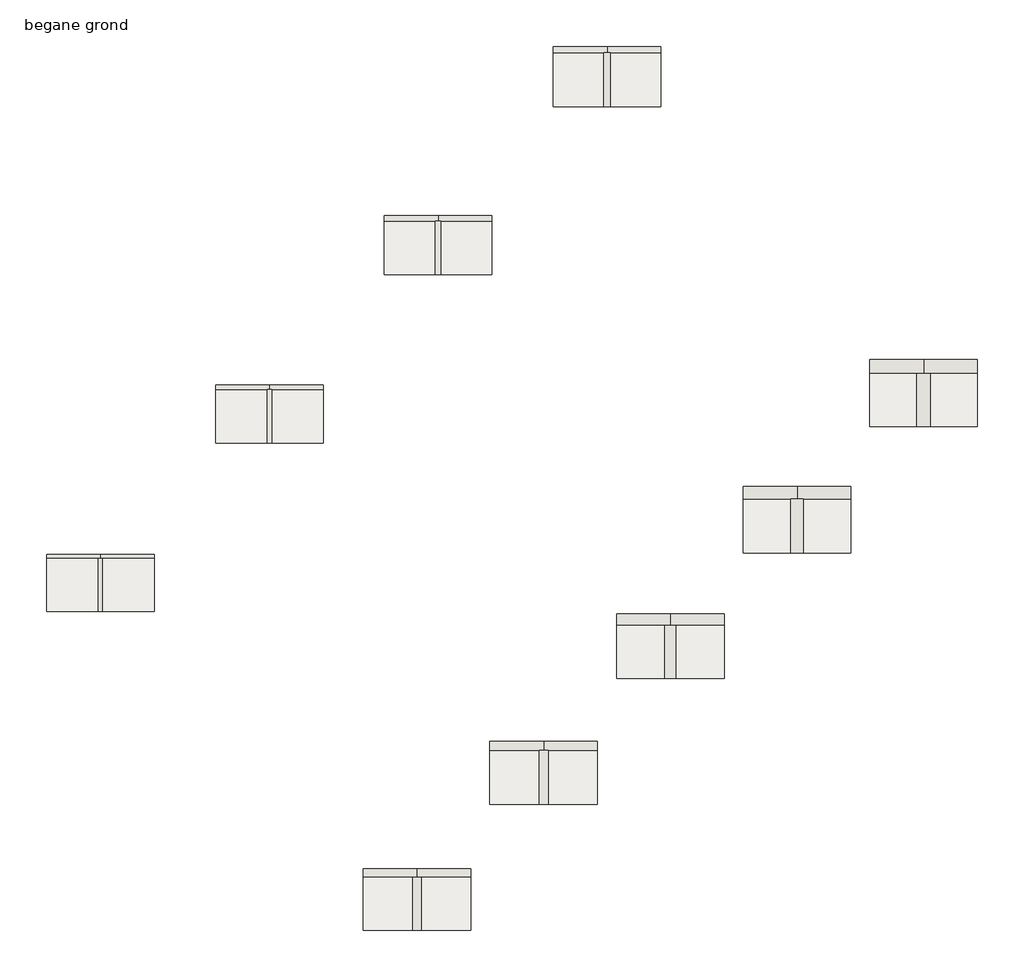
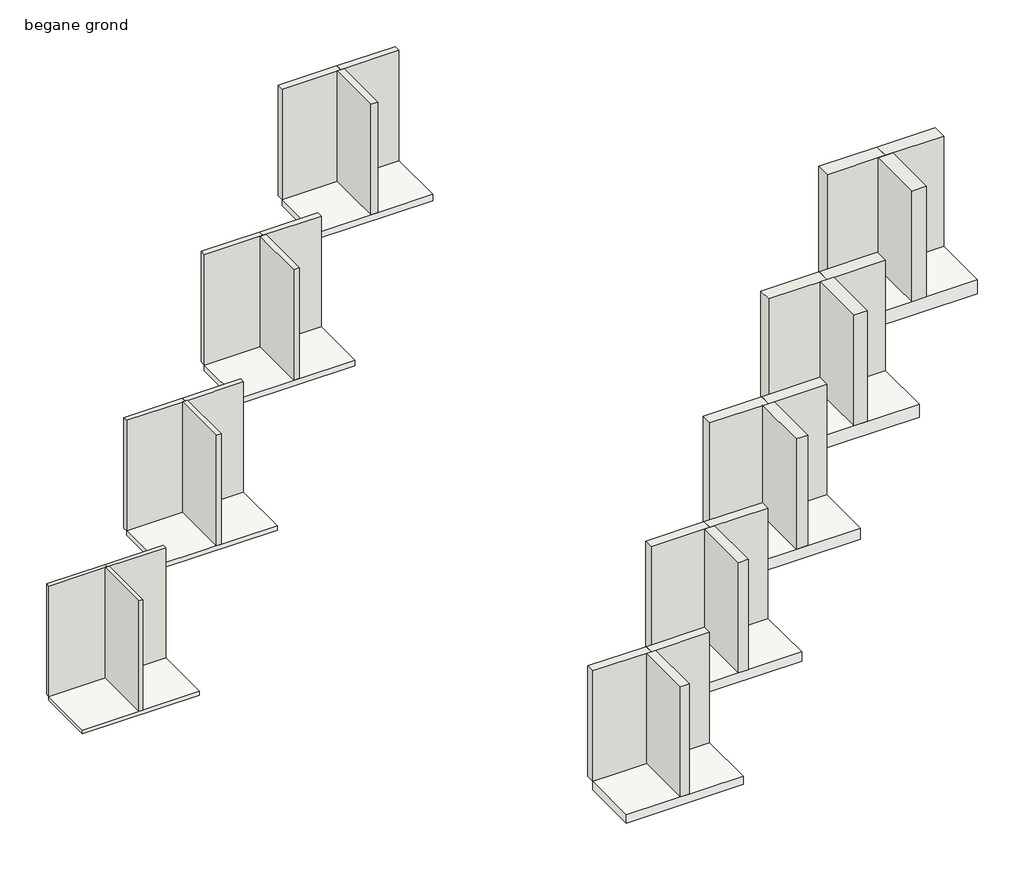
# One storey: 27 walls, 9 slabs.
"""IFC4 building model written with IfcOpenShell, lengths in millimetres."""

from ifc_helpers import new_model, si_unit, frame, origin, origin_with_axes, place, context, project, spatial, polyline, outline, extrude, element, save

model = new_model("IFC4")

# Units and contexts
model_context = context("Model", 3, world=origin())
ifc_project = project(units=[si_unit("LENGTHUNIT", "METRE", prefix="MILLI")], contexts=[model_context])

# Site, building, storey
site = spatial("IfcSite", under=ifc_project)
building = spatial("IfcBuilding", under=site)
storey = spatial("IfcBuildingStorey", under=building, Name="begane grond", Elevation=0.0)

# Slabs
placement = place(None, origin())
element("IfcSlab", 1, ObjectType="NLRS_23_FL_Mineral Wool_100x600x1200mm", at=placement, inside=storey, context=model_context, shape_type="SweptSolid", body=[
    extrude(outline(polyline([(6584.2861217, 253.2432475), (6584.2861217, -346.7567525), (5384.2861217, -346.7567525), (5384.2861217, 253.2432475), (6584.2861217, 253.2432475)])), frame((0.0, 0.0, -100.0), z_axis=(0.0, 0.0, 1.0), x_axis=(1.0, 0.0, 0.0)), (0.0, 0.0, 1.0), 100.0),
])
element("IfcSlab", 2, ObjectType="NLRS_23_FL_Mineral Wool_120x600x1200mm", at=placement, inside=storey, context=model_context, shape_type="SweptSolid", body=[
    extrude(outline(polyline([(7998.499684, 1657.4568098), (7998.499684, 1057.4568098), (6798.499684, 1057.4568098), (6798.499684, 1657.4568098), (7998.499684, 1657.4568098)])), frame((0.0, 0.0, -120.0), z_axis=(0.0, 0.0, 1.0), x_axis=(1.0, 0.0, 0.0)), (0.0, 0.0, 1.0), 120.0),
])
element("IfcSlab", 3, ObjectType="NLRS_23_FL_Mineral Wool_140x600x1200mm", at=placement, inside=storey, context=model_context, shape_type="SweptSolid", body=[
    extrude(outline(polyline([(9412.7132464, 3061.6703722), (9412.7132464, 2461.6703722), (8212.7132464, 2461.6703722), (8212.7132464, 3061.6703722), (9412.7132464, 3061.6703722)])), frame((0.0, 0.0, -140.0), z_axis=(0.0, 0.0, 1.0), x_axis=(1.0, 0.0, 0.0)), (0.0, 0.0, 1.0), 140.0),
])
element("IfcSlab", 4, ObjectType="NLRS_23_FL_Mineral Wool_150x600x1200mm", at=placement, inside=storey, context=model_context, shape_type="SweptSolid", body=[
    extrude(outline(polyline([(10826.9268088, 4470.8839346), (10826.9268088, 3870.8839346), (9626.9268088, 3870.8839346), (9626.9268088, 4470.8839346), (10826.9268088, 4470.8839346)])), frame((0.0, 0.0, -150.0), z_axis=(0.0, 0.0, 1.0), x_axis=(1.0, 0.0, 0.0)), (0.0, 0.0, 1.0), 150.0),
])
element("IfcSlab", 5, ObjectType="NLRS_23_FL_Mineral Wool_40x600x1200mm", at=placement, inside=storey, context=model_context, shape_type="SweptSolid", body=[
    extrude(outline(polyline([(1634.5386534, 2404.563591), (1634.5386534, 1804.563591), (434.5386534, 1804.563591), (434.5386534, 2404.563591), (1634.5386534, 2404.563591)])), frame((0.0, 0.0, -40.0), z_axis=(0.0, 0.0, 1.0), x_axis=(1.0, 0.0, 0.0)), (0.0, 0.0, 1.0), 40.0),
])
element("IfcSlab", 6, ObjectType="NLRS_23_FL_Mineral Wool_50x600x1200mm", at=placement, inside=storey, context=model_context, shape_type="SweptSolid", body=[
    extrude(outline(polyline([(3521.0995456, 4286.1244832), (3521.0995456, 3686.1244832), (2321.0995456, 3686.1244832), (2321.0995456, 4286.1244832), (3521.0995456, 4286.1244832)])), frame((0.0, 0.0, -50.0), z_axis=(0.0, 0.0, 1.0), x_axis=(1.0, 0.0, 0.0)), (0.0, 0.0, 1.0), 50.0),
])
element("IfcSlab", 7, ObjectType="NLRS_23_FL_Mineral Wool_60x600x1200mm", at=placement, inside=storey, context=model_context, shape_type="SweptSolid", body=[
    extrude(outline(polyline([(5406.2462242, 6166.2711619), (5406.2462242, 5566.2711619), (4206.2462242, 5566.2711619), (4206.2462242, 6166.2711619), (5406.2462242, 6166.2711619)])), frame((0.0, 0.0, -60.0), z_axis=(0.0, 0.0, 1.0), x_axis=(1.0, 0.0, 0.0)), (0.0, 0.0, 1.0), 60.0),
])
element("IfcSlab", 8, ObjectType="NLRS_23_FL_Mineral Wool_70x600x1200mm", at=placement, inside=storey, context=model_context, shape_type="SweptSolid", body=[
    extrude(outline(polyline([(7291.3929029, 8046.4178405), (7291.3929029, 7446.4178405), (6091.3929029, 7446.4178405), (6091.3929029, 8046.4178405), (7291.3929029, 8046.4178405)])), frame((0.0, 0.0, -70.0), z_axis=(0.0, 0.0, 1.0), x_axis=(1.0, 0.0, 0.0)), (0.0, 0.0, 1.0), 70.0),
])
element("IfcSlab", 9, ObjectType="NLRS_23_FL_Mineral Wool_90x600x1200mm", at=placement, inside=storey, context=model_context, shape_type="SweptSolid", body=[
    extrude(outline(polyline([(5170.0725593, -1155.9703149), (5170.0725593, -1755.9703149), (3970.0725593, -1755.9703149), (3970.0725593, -1155.9703149), (5170.0725593, -1155.9703149)])), frame((0.0, 0.0, -90.0), z_axis=(0.0, 0.0, 1.0), x_axis=(1.0, 0.0, 0.0)), (0.0, 0.0, 1.0), 90.0),
])

# Walls
element("IfcWall", 10, ObjectType="NLRS_22_WA_Mineral Wool 35_100x600x1200mm", at=placement, inside=storey, context=model_context, shape_type="SweptSolid", body=[
    extrude(outline(polyline([(5984.2861217, 253.2432475), (5384.2861217, 253.2432475), (5384.2861217, 353.2432475), (5984.2861217, 353.2432475), (5984.2861217, 253.2432475)])), origin_with_axes(), (0.0, 0.0, 1.0), 1200.0),
])
element("IfcWall", 11, ObjectType="NLRS_22_WA_Mineral Wool 35_100x600x1200mm", at=placement, inside=storey, context=model_context, shape_type="SweptSolid", body=[
    extrude(outline(polyline([(6584.2861217, 253.2432475), (5984.2861217, 253.2432475), (5984.2861217, 353.2432475), (6584.2861217, 353.2432475), (6584.2861217, 253.2432475)])), origin_with_axes(), (0.0, 0.0, 1.0), 1200.0),
])
element("IfcWall", 12, ObjectType="NLRS_22_WA_Mineral Wool 35_100x600x1200mm", at=placement, inside=storey, context=model_context, shape_type="SweptSolid", body=[
    extrude(outline(polyline([(5934.2861217, -346.7567525), (5934.2861217, 253.2432475), (6034.2861217, 253.2432475), (6034.2861217, -346.7567525), (5934.2861217, -346.7567525)])), origin_with_axes(), (0.0, 0.0, 1.0), 1200.0),
])
element("IfcWall", 13, ObjectType="NLRS_22_WA_Mineral Wool 35_120x600x1200mm", at=placement, inside=storey, context=model_context, shape_type="SweptSolid", body=[
    extrude(outline(polyline([(7398.499684, 1657.4568098), (6798.499684, 1657.4568098), (6798.499684, 1777.4568098), (7398.499684, 1777.4568098), (7398.499684, 1657.4568098)])), origin_with_axes(), (0.0, 0.0, 1.0), 1200.0),
])
element("IfcWall", 14, ObjectType="NLRS_22_WA_Mineral Wool 35_120x600x1200mm", at=placement, inside=storey, context=model_context, shape_type="SweptSolid", body=[
    extrude(outline(polyline([(7998.499684, 1657.4568098), (7398.499684, 1657.4568098), (7398.499684, 1777.4568098), (7998.499684, 1777.4568098), (7998.499684, 1657.4568098)])), origin_with_axes(), (0.0, 0.0, 1.0), 1200.0),
])
element("IfcWall", 15, ObjectType="NLRS_22_WA_Mineral Wool 35_120x600x1200mm", at=placement, inside=storey, context=model_context, shape_type="SweptSolid", body=[
    extrude(outline(polyline([(7338.499684, 1057.4568098), (7338.499684, 1657.4568098), (7458.499684, 1657.4568098), (7458.499684, 1057.4568098), (7338.499684, 1057.4568098)])), origin_with_axes(), (0.0, 0.0, 1.0), 1200.0),
])
element("IfcWall", 16, ObjectType="NLRS_22_WA_Mineral Wool 35_140x600x1200mm", at=placement, inside=storey, context=model_context, shape_type="SweptSolid", body=[
    extrude(outline(polyline([(8812.7132464, 3061.6703722), (8212.7132464, 3061.6703722), (8212.7132464, 3201.6703722), (8812.7132464, 3201.6703722), (8812.7132464, 3061.6703722)])), origin_with_axes(), (0.0, 0.0, 1.0), 1200.0),
])
element("IfcWall", 17, ObjectType="NLRS_22_WA_Mineral Wool 35_140x600x1200mm", at=placement, inside=storey, context=model_context, shape_type="SweptSolid", body=[
    extrude(outline(polyline([(9412.7132464, 3061.6703722), (8812.7132464, 3061.6703722), (8812.7132464, 3201.6703722), (9412.7132464, 3201.6703722), (9412.7132464, 3061.6703722)])), origin_with_axes(), (0.0, 0.0, 1.0), 1200.0),
])
element("IfcWall", 18, ObjectType="NLRS_22_WA_Mineral Wool 35_140x600x1200mm", at=placement, inside=storey, context=model_context, shape_type="SweptSolid", body=[
    extrude(outline(polyline([(8742.7132464, 2461.6703722), (8742.7132464, 3061.6703722), (8882.7132464, 3061.6703722), (8882.7132464, 2461.6703722), (8742.7132464, 2461.6703722)])), origin_with_axes(), (0.0, 0.0, 1.0), 1200.0),
])
element("IfcWall", 19, ObjectType="NLRS_22_WA_Mineral Wool 35_150x600x1200mm", at=placement, inside=storey, context=model_context, shape_type="SweptSolid", body=[
    extrude(outline(polyline([(10226.9268088, 4470.8839346), (9626.9268088, 4470.8839346), (9626.9268088, 4620.8839346), (10226.9268088, 4620.8839346), (10226.9268088, 4470.8839346)])), origin_with_axes(), (0.0, 0.0, 1.0), 1200.0),
])
element("IfcWall", 20, ObjectType="NLRS_22_WA_Mineral Wool 35_150x600x1200mm", at=placement, inside=storey, context=model_context, shape_type="SweptSolid", body=[
    extrude(outline(polyline([(10826.9268088, 4470.8839346), (10226.9268088, 4470.8839346), (10226.9268088, 4620.8839346), (10826.9268088, 4620.8839346), (10826.9268088, 4470.8839346)])), origin_with_axes(), (0.0, 0.0, 1.0), 1200.0),
])
element("IfcWall", 21, ObjectType="NLRS_22_WA_Mineral Wool 35_150x600x1200mm", at=placement, inside=storey, context=model_context, shape_type="SweptSolid", body=[
    extrude(outline(polyline([(10151.9268088, 3870.8839346), (10151.9268088, 4470.8839346), (10301.9268088, 4470.8839346), (10301.9268088, 3870.8839346), (10151.9268088, 3870.8839346)])), origin_with_axes(), (0.0, 0.0, 1.0), 1200.0),
])
element("IfcWall", 22, ObjectType="NLRS_22_WA_Mineral Wool 35_40x600x1200mm", at=placement, inside=storey, context=model_context, shape_type="SweptSolid", body=[
    extrude(outline(polyline([(1034.5386534, 2404.563591), (434.5386534, 2404.563591), (434.5386534, 2444.563591), (1034.5386534, 2444.563591), (1034.5386534, 2404.563591)])), origin_with_axes(), (0.0, 0.0, 1.0), 1200.0),
])
element("IfcWall", 23, ObjectType="NLRS_22_WA_Mineral Wool 35_40x600x1200mm", at=placement, inside=storey, context=model_context, shape_type="SweptSolid", body=[
    extrude(outline(polyline([(1634.5386534, 2404.563591), (1034.5386534, 2404.563591), (1034.5386534, 2444.563591), (1634.5386534, 2444.563591), (1634.5386534, 2404.563591)])), origin_with_axes(), (0.0, 0.0, 1.0), 1200.0),
])
element("IfcWall", 24, ObjectType="NLRS_22_WA_Mineral Wool 35_40x600x1200mm", at=placement, inside=storey, context=model_context, shape_type="SweptSolid", body=[
    extrude(outline(polyline([(1014.5386534, 1804.563591), (1014.5386534, 2404.563591), (1054.5386534, 2404.563591), (1054.5386534, 1804.563591), (1014.5386534, 1804.563591)])), origin_with_axes(), (0.0, 0.0, 1.0), 1200.0),
])
element("IfcWall", 25, ObjectType="NLRS_22_WA_Mineral Wool 35_50x600x1200mm", at=placement, inside=storey, context=model_context, shape_type="SweptSolid", body=[
    extrude(outline(polyline([(2921.0995456, 4286.1244832), (2321.0995456, 4286.1244832), (2321.0995456, 4336.1244832), (2921.0995456, 4336.1244832), (2921.0995456, 4286.1244832)])), origin_with_axes(), (0.0, 0.0, 1.0), 1200.0),
])
element("IfcWall", 26, ObjectType="NLRS_22_WA_Mineral Wool 35_50x600x1200mm", at=placement, inside=storey, context=model_context, shape_type="SweptSolid", body=[
    extrude(outline(polyline([(3521.0995456, 4286.1244832), (2921.0995456, 4286.1244832), (2921.0995456, 4336.1244832), (3521.0995456, 4336.1244832), (3521.0995456, 4286.1244832)])), origin_with_axes(), (0.0, 0.0, 1.0), 1200.0),
])
element("IfcWall", 27, ObjectType="NLRS_22_WA_Mineral Wool 35_50x600x1200mm", at=placement, inside=storey, context=model_context, shape_type="SweptSolid", body=[
    extrude(outline(polyline([(2896.0995456, 3686.1244832), (2896.0995456, 4286.1244832), (2946.0995456, 4286.1244832), (2946.0995456, 3686.1244832), (2896.0995456, 3686.1244832)])), origin_with_axes(), (0.0, 0.0, 1.0), 1200.0),
])
element("IfcWall", 28, ObjectType="NLRS_22_WA_Mineral Wool 35_60x600x1200mm", at=placement, inside=storey, context=model_context, shape_type="SweptSolid", body=[
    extrude(outline(polyline([(4806.2462242, 6166.2711619), (4206.2462242, 6166.2711619), (4206.2462242, 6226.2711619), (4806.2462242, 6226.2711619), (4806.2462242, 6166.2711619)])), origin_with_axes(), (0.0, 0.0, 1.0), 1200.0),
])
element("IfcWall", 29, ObjectType="NLRS_22_WA_Mineral Wool 35_60x600x1200mm", at=placement, inside=storey, context=model_context, shape_type="SweptSolid", body=[
    extrude(outline(polyline([(5406.2462242, 6166.2711619), (4806.2462242, 6166.2711619), (4806.2462242, 6226.2711619), (5406.2462242, 6226.2711619), (5406.2462242, 6166.2711619)])), origin_with_axes(), (0.0, 0.0, 1.0), 1200.0),
])
element("IfcWall", 30, ObjectType="NLRS_22_WA_Mineral Wool 35_60x600x1200mm", at=placement, inside=storey, context=model_context, shape_type="SweptSolid", body=[
    extrude(outline(polyline([(4776.2462242, 5566.2711619), (4776.2462242, 6166.2711619), (4836.2462242, 6166.2711619), (4836.2462242, 5566.2711619), (4776.2462242, 5566.2711619)])), origin_with_axes(), (0.0, 0.0, 1.0), 1200.0),
])
element("IfcWall", 31, ObjectType="NLRS_22_WA_Mineral Wool 35_70x600x1200mm", at=placement, inside=storey, context=model_context, shape_type="SweptSolid", body=[
    extrude(outline(polyline([(6691.3929029, 8046.4178405), (6091.3929029, 8046.4178405), (6091.3929029, 8116.4178405), (6691.3929029, 8116.4178405), (6691.3929029, 8046.4178405)])), origin_with_axes(), (0.0, 0.0, 1.0), 1200.0),
])
element("IfcWall", 32, ObjectType="NLRS_22_WA_Mineral Wool 35_70x600x1200mm", at=placement, inside=storey, context=model_context, shape_type="SweptSolid", body=[
    extrude(outline(polyline([(7291.3929029, 8046.4178405), (6691.3929029, 8046.4178405), (6691.3929029, 8116.4178405), (7291.3929029, 8116.4178405), (7291.3929029, 8046.4178405)])), origin_with_axes(), (0.0, 0.0, 1.0), 1200.0),
])
element("IfcWall", 33, ObjectType="NLRS_22_WA_Mineral Wool 35_70x600x1200mm", at=placement, inside=storey, context=model_context, shape_type="SweptSolid", body=[
    extrude(outline(polyline([(6656.3929029, 7446.4178405), (6656.3929029, 8046.4178405), (6726.3929029, 8046.4178405), (6726.3929029, 7446.4178405), (6656.3929029, 7446.4178405)])), origin_with_axes(), (0.0, 0.0, 1.0), 1200.0),
])
element("IfcWall", 34, ObjectType="NLRS_22_WA_Mineral Wool 35_90x600x1200mm", at=placement, inside=storey, context=model_context, shape_type="SweptSolid", body=[
    extrude(outline(polyline([(4570.0725593, -1155.9703149), (3970.0725593, -1155.9703149), (3970.0725593, -1065.9703149), (4570.0725593, -1065.9703149), (4570.0725593, -1155.9703149)])), origin_with_axes(), (0.0, 0.0, 1.0), 1200.0),
])
element("IfcWall", 35, ObjectType="NLRS_22_WA_Mineral Wool 35_90x600x1200mm", at=placement, inside=storey, context=model_context, shape_type="SweptSolid", body=[
    extrude(outline(polyline([(5170.0725593, -1155.9703149), (4570.0725593, -1155.9703149), (4570.0725593, -1065.9703149), (5170.0725593, -1065.9703149), (5170.0725593, -1155.9703149)])), origin_with_axes(), (0.0, 0.0, 1.0), 1200.0),
])
element("IfcWall", 36, ObjectType="NLRS_22_WA_Mineral Wool 35_90x600x1200mm", at=placement, inside=storey, context=model_context, shape_type="SweptSolid", body=[
    extrude(outline(polyline([(4525.0725593, -1755.9703149), (4525.0725593, -1155.9703149), (4615.0725593, -1155.9703149), (4615.0725593, -1755.9703149), (4525.0725593, -1755.9703149)])), origin_with_axes(), (0.0, 0.0, 1.0), 1200.0),
])

save(model, "model.ifc")
